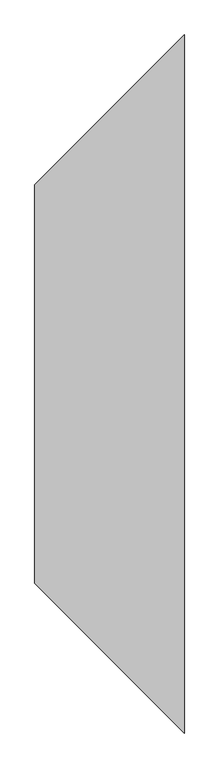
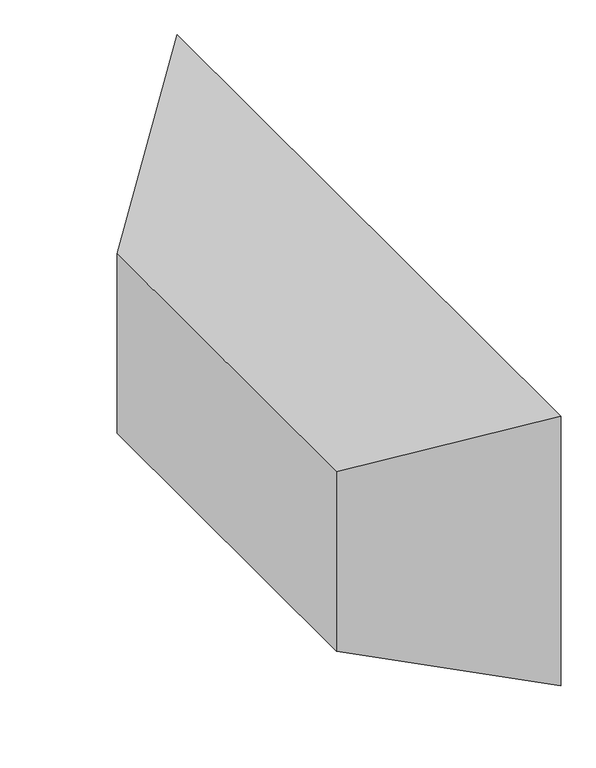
"""IFC4 building model written with IfcOpenShell, lengths in millimetres: duct fitting geometry, ADSK_ПереходникВоздуховодов_Прямоугольный1 : Стандартное 2."""

import ifcopenshell
import ifcopenshell.guid

model = None  # the IFC model being written
_history = None  # IfcOwnerHistory: only IFC2X3 demands one
_inside = {}  # id of a spatial element -> (the spatial element, [elements in it])
_under = {}  # id of a project, library or spatial element -> (it, [spatial elements below it])
_declared = {}  # id of a project -> (the project, [libraries it declares])
_typed = {}  # id of a type object -> (the type object, [elements of that type])
_made_of = {}  # id of a material, layer set ... -> (it, [elements and type objects made of it])


def new_model(schema):
    """Start an empty IFC model of exactly this schema.

    Asked for "IFC4X3", IfcOpenShell would pick the latest addendum, in which some entities
    have other attributes; the version numbers below select the first issue.
    IFC2X3 requires an IfcOwnerHistory on every rooted entity: one is made here for all.
    """
    global model, _history
    if schema == "IFC4X3":
        model = ifcopenshell.file(schema_version=(4, 3, 0, 0))
    else:
        model = ifcopenshell.file(schema=schema)
    _inside.clear()
    _under.clear()
    _declared.clear()
    _typed.clear()
    _made_of.clear()
    _history = None
    if model.schema == "IFC2X3":
        org = make("IfcOrganization", Name="unknown")
        user = make(
            "IfcPersonAndOrganization",
            ThePerson=make("IfcPerson", FamilyName="unknown"),
            TheOrganization=org,
        )
        app = make(
            "IfcApplication",
            ApplicationDeveloper=org,
            Version="unknown",
            ApplicationFullName="unknown",
            ApplicationIdentifier="unknown",
        )
        _history = make(
            "IfcOwnerHistory",
            OwningUser=user,
            OwningApplication=app,
            ChangeAction="ADDED",
            CreationDate=0,
        )
    return model


def make(cls, **values):
    """One entity of the class cls with the attributes given. An attribute that is None is left unset."""
    return model.create_entity(
        cls, **{name: value for name, value in values.items() if value is not None}
    )


def rooted(cls, **values):
    """An entity with a GlobalId (a new one), such as an element, a storey or a relation."""
    return make(cls, GlobalId=ifcopenshell.guid.new(), OwnerHistory=_history, **values)


def si_unit(unit_type, name, prefix=None):
    """IfcSIUnit, for example si_unit("LENGTHUNIT", "METRE", prefix="MILLI")."""
    return make("IfcSIUnit", UnitType=unit_type, Prefix=prefix, Name=name)


def assignment(units):
    """IfcUnitAssignment: the units of a project."""
    return None if units is None else make("IfcUnitAssignment", Units=units)


def point(xyz):
    """IfcCartesianPoint."""
    return None if xyz is None else make("IfcCartesianPoint", Coordinates=xyz)


def direction(xyz):
    """IfcDirection."""
    return None if xyz is None else make("IfcDirection", DirectionRatios=xyz)


def frame(location, z_axis=None, x_axis=None):
    """IfcAxis2Placement3D, a coordinate frame: its origin and axes. An axis left out is left unset."""
    return make(
        "IfcAxis2Placement3D",
        Location=point(location),
        Axis=direction(z_axis),
        RefDirection=direction(x_axis),
    )


def origin():
    """The frame at (0, 0, 0) with its axes left unset."""
    return frame((0.0, 0.0, 0.0))


def place(relative_to, where):
    """IfcLocalPlacement: puts the frame where relative to a parent placement (None: the world)."""
    return make(
        "IfcLocalPlacement", PlacementRelTo=relative_to, RelativePlacement=where
    )


def context(
    kind, dimensions, precision=None, world=None, true_north=None, identifier=None
):
    """IfcGeometricRepresentationContext, for example the 3D "Model" context."""
    return make(
        "IfcGeometricRepresentationContext",
        ContextIdentifier=identifier,
        ContextType=kind,
        CoordinateSpaceDimension=dimensions,
        Precision=precision,
        WorldCoordinateSystem=world,
        TrueNorth=true_north,
    )


def project(units=None, contexts=None):
    """IfcProject with its units and contexts."""
    return rooted(
        "IfcProject",
        Name="project",
        RepresentationContexts=contexts,
        UnitsInContext=assignment(units),
    )


def spatial(cls, under=None, at=None, **own):
    """A site, building, storey or space (cls), placed at a placement, below another one or the project."""
    s = rooted(cls, ObjectPlacement=at, **own)
    if under is not None:
        _under.setdefault(under.id(), (under, []))[1].append(s)
    return s


def faces_of(points, faces, orient=None, outer=None):
    """IfcFace entities. A face is a list of loops; a loop is a list of indices into points, from 0.

    orient and outer hold one flag for each loop. By default every Orientation is true, the
    first loop of a face is its IfcFaceOuterBound and the others are IfcFaceBound.
    """
    made = []
    for i, loops in enumerate(faces):
        bounds = []
        for j, loop in enumerate(loops):
            is_outer = j == 0 if outer is None else outer[i][j]
            bounds.append(
                make(
                    "IfcFaceOuterBound" if is_outer else "IfcFaceBound",
                    Bound=make("IfcPolyLoop", Polygon=[points[k] for k in loop]),
                    Orientation=True if orient is None else orient[i][j],
                )
            )
        made.append(make("IfcFace", Bounds=bounds))
    return made


def faceted_brep(points, faces, orient=None, outer=None, voids=None):
    """IfcFacetedBrep: a solid bounded by flat faces; with voids (closed shells), ...WithVoids."""
    shared = [point(p) for p in points]
    hull = make("IfcClosedShell", CfsFaces=faces_of(shared, faces, orient, outer))
    if voids is None:
        return make("IfcFacetedBrep", Outer=hull)
    return make(
        "IfcFacetedBrepWithVoids",
        Outer=hull,
        Voids=[
            make(cls, CfsFaces=faces_of(shared, fs, o, b)) for cls, fs, o, b in voids
        ],
    )


def shape(context_of_items, identifier, shape_type, items):
    """IfcShapeRepresentation: the items that make up one representation, for example the "Body"."""
    return make(
        "IfcShapeRepresentation",
        ContextOfItems=context_of_items,
        RepresentationIdentifier=identifier,
        RepresentationType=shape_type,
        Items=items,
    )


def source(mapping_origin, context_of_items, identifier, shape_type, items):
    """IfcRepresentationMap: a shape defined once, which mapped items show again and again."""
    return make(
        "IfcRepresentationMap",
        MappingOrigin=mapping_origin,
        MappedRepresentation=shape(context_of_items, identifier, shape_type, items),
    )


def transform(
    local_origin,
    x_axis=None,
    y_axis=None,
    z_axis=None,
    scale=None,
    scale2=None,
    scale3=None,
    uniform=True,
):
    """IfcCartesianTransformationOperator3D, or its non-uniform kind. x_axis, y_axis, z_axis: its Axis1, 2, 3."""
    if uniform:
        return make(
            "IfcCartesianTransformationOperator3D",
            Axis1=direction(x_axis),
            Axis2=direction(y_axis),
            LocalOrigin=point(local_origin),
            Scale=scale,
            Axis3=direction(z_axis),
        )
    return make(
        "IfcCartesianTransformationOperator3DnonUniform",
        Axis1=direction(x_axis),
        Axis2=direction(y_axis),
        LocalOrigin=point(local_origin),
        Scale=scale,
        Axis3=direction(z_axis),
        Scale2=scale2,
        Scale3=scale3,
    )


def mapped(mapping_source, mapping_target):
    """IfcMappedItem: shows the shape of a source again, moved by a transform."""
    return make(
        "IfcMappedItem", MappingSource=mapping_source, MappingTarget=mapping_target
    )


def made_of(thing, what):
    """Note that an element or type object is made of a material, layer set ...; save() writes the relation."""
    if what is not None:
        _made_of.setdefault(what.id(), (what, []))[1].append(thing)
    return thing


def element(
    cls,
    number,
    at=None,
    inside=None,
    cuts=None,
    type_object=None,
    material=None,
    context=None,
    identifier="Body",
    shape_type=None,
    held_by="IfcProductDefinitionShape",
    body=None,
    shapes=None,
    **own,
):
    """One element of the class cls, such as IfcWall. Its Tag is "e" and its number.

    at: its placement. inside: the storey or other place that contains it. cuts: it is an
    opening in that element (IfcRelVoidsElement). A single representation is given by context,
    identifier, shape_type and body (its items); several are given by shapes. held_by: the class
    of the entity that holds the representations. save() writes the other relations.
    """
    e = rooted(cls, Tag="e%d" % number, ObjectPlacement=at, **own)
    if body is not None:
        shapes = [shape(context, identifier, shape_type, body)]
    if shapes is not None:
        e.Representation = make(held_by, Representations=shapes)
    if inside is not None:
        _inside.setdefault(inside.id(), (inside, []))[1].append(e)
    if cuts is not None:
        rooted(
            "IfcRelVoidsElement", RelatingBuildingElement=cuts, RelatedOpeningElement=e
        )
    if type_object is not None:
        _typed.setdefault(type_object.id(), (type_object, []))[1].append(e)
    return made_of(e, material)


def aggregate(whole, parts):
    """IfcRelAggregates: a whole, such as a stair, and the parts it consists of."""
    return rooted("IfcRelAggregates", RelatingObject=whole, RelatedObjects=parts)


def save(model, path):
    """Write the relations noted so far, then the file.

    IfcRelAggregates (storeys below a building ...), IfcRelContainedInSpatialStructure (elements
    in a storey), IfcRelDefinesByType, IfcRelAssociatesMaterial and IfcRelDeclares: one each for
    every whole, place, type object, material and project.
    """
    for whole, parts in _under.values():
        aggregate(whole, parts)
    for where, things in _inside.values():
        rooted(
            "IfcRelContainedInSpatialStructure",
            RelatedElements=things,
            RelatingStructure=where,
        )
    for kind, things in _typed.values():
        rooted("IfcRelDefinesByType", RelatedObjects=things, RelatingType=kind)
    for what, things in _made_of.values():
        rooted("IfcRelAssociatesMaterial", RelatedObjects=things, RelatingMaterial=what)
    for by, libraries in _declared.values():
        rooted("IfcRelDeclares", RelatingContext=by, RelatedDefinitions=libraries)
    model.write(path)


def duct_fitting_2d9afdb4(model_context):
    return source(origin(), model_context, "Body", "Brep", [
        faceted_brep([(300.0, -700.0, 400.0), (300.0, -700.0, -200.0), (300.0, 700.0, -200.0), (300.0, 700.0, 400.0), (0.0, -400.0, 200.0), (0.0, 400.0, 200.0), (0.0, 400.0, -200.0), (0.0, -400.0, -200.0)], [[[0, 1, 2, 3]], [[4, 5, 6, 7]], [[4, 7, 1, 0]], [[7, 6, 2, 1]], [[6, 5, 3, 2]], [[5, 4, 0, 3]]]),
    ])


if __name__ == "__main__":
    model = new_model("IFC4")
    model_context = context("Model", 3, world=origin())
    ifc_project = project(units=[si_unit("LENGTHUNIT", "METRE", prefix="MILLI")], contexts=[model_context])
    site = spatial("IfcSite", under=ifc_project)
    building = spatial("IfcBuilding", under=site)
    placement = place(None, origin())
    duct_fitting_shape = duct_fitting_2d9afdb4(model_context)
    element("IfcDuctFitting", 1, ObjectType="ADSK_ПереходникВоздуховодов_Прямоугольный1 : Стандартное 2", at=placement, inside=building, context=model_context, shape_type="MappedRepresentation", body=[
        mapped(duct_fitting_shape, transform((0.0, 0.0, 0.0), x_axis=(1.0, 0.0, 0.0), y_axis=(0.0, 1.0, 0.0), z_axis=(0.0, 0.0, 1.0))),
    ])
    save(model, "model.ifc")
